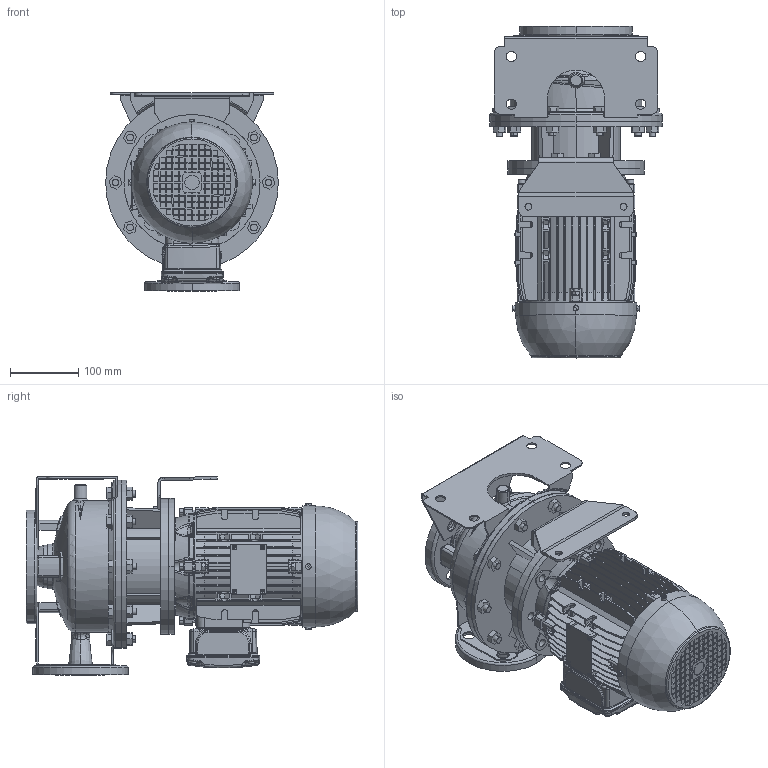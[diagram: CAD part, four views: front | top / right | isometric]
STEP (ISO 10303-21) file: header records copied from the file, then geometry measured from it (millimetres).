
FILE_DESCRIPTION (( 'STEP AP214' ), '1' );
FILE_NAME ('3LS 32-160_1.5 & 2.2_(90SL)_W21.STEP', '2025-07-29T03:27:48', ( '' ), ( '' ), 'SwSTEP 2.0', 'SolidWorks 2019', '' );
FILE_SCHEMA (( 'AUTOMOTIVE_DESIGN' ));
Length unit declared in the file: inch
Products named in the file (3): 90S_L ALIE3_W21T_B5; 3LS 32-160_1.5 & 2.2_(90SL)_W21; 32-160_1_5
Assembly tree (2 placements, depth 2):
  3LS 32-160_1.5 & 2.2_(90SL)_W21
    32-160_1_5
    90S_L ALIE3_W21T_B5
Bounding box: 254 x 488 x 292 mm (x, y, z)
Volume: 10202086.7 mm3; surface area: 1176458.3 mm2
Topology: 12 solids, 16 shells, 3107 faces, 8207 edges, 5327 vertices
Faces by surface type: plane 1841, cylinder 744, bspline 216, torus 168, cone 110, sphere 28
Entity records: 168215 total; most frequent: CARTESIAN_POINT 83264, ORIENTED_EDGE 16358, DIRECTION 14530, EDGE_CURVE 8179, VERTEX_POINT 5327, VECTOR 5116, LINE 5116, AXIS2_PLACEMENT_3D 4707
